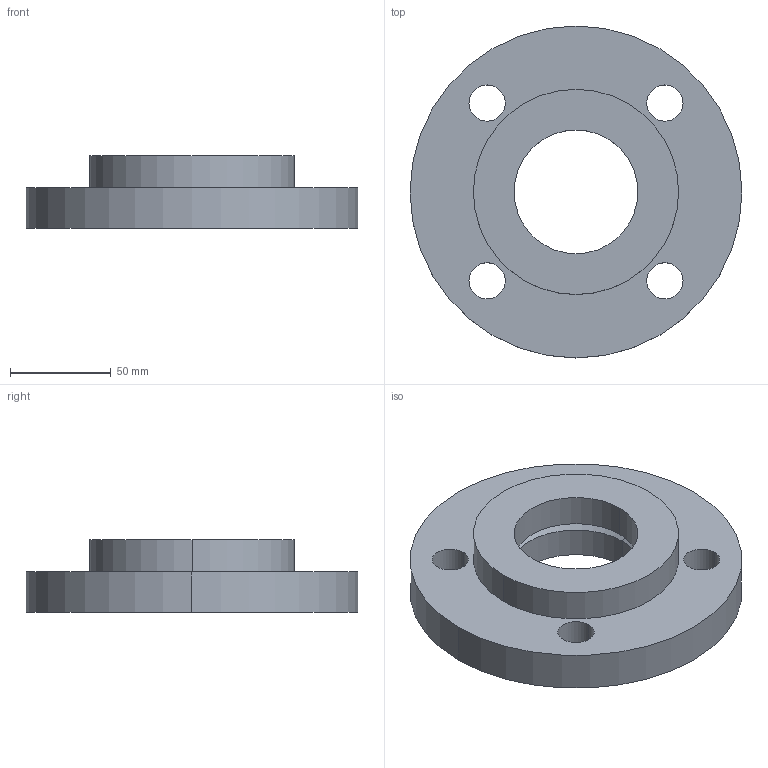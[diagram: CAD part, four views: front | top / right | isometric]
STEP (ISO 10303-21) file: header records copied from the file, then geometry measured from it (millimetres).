
FILE_DESCRIPTION (( 'STEP AP214' ), '1' );
FILE_NAME ('PN40 DN50 Type 02 in 32 - (Type A Face).STEP', '2018-12-30T04:43:37', ( '' ), ( '' ), 'SwSTEP 2.0', 'SolidWorks 2019', '' );
FILE_SCHEMA (( 'AUTOMOTIVE_DESIGN' ));
Length unit declared in the file: millimetre
Products named in the file (1): PN40 DN50 Type 02 in 32 - (Type A Face)
Bounding box: 165 x 165 x 36 mm (x, y, z)
Volume: 421453.6 mm3; surface area: 71122 mm2
Topology: 2 solids, 2 shells, 22 faces, 52 edges, 34 vertices
Faces by surface type: cylinder 16, plane 4, cone 2
Entity records: 721 total; most frequent: DIRECTION 132, CARTESIAN_POINT 109, ORIENTED_EDGE 104, AXIS2_PLACEMENT_3D 57, EDGE_CURVE 52, VERTEX_POINT 34, CIRCLE 34, EDGE_LOOP 34
